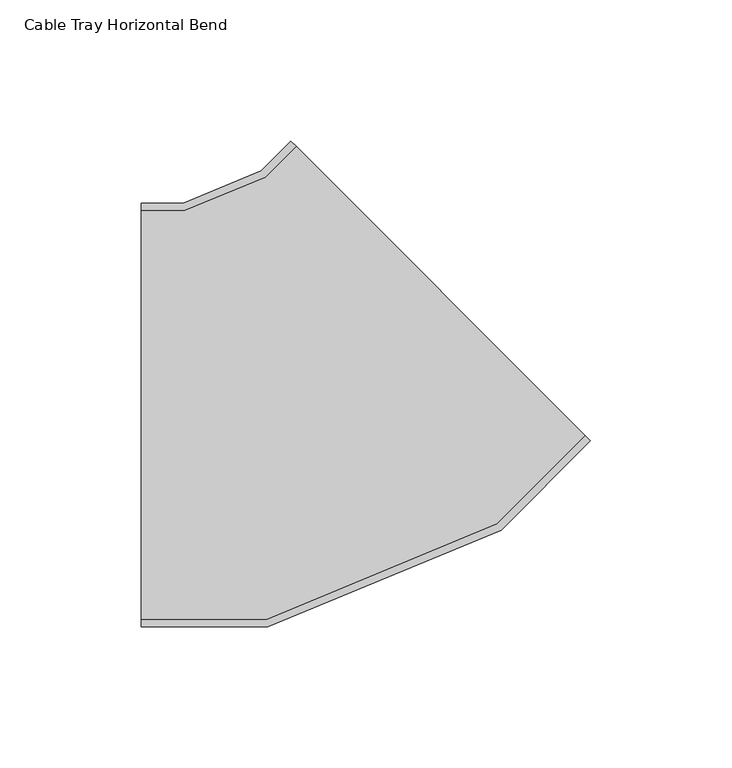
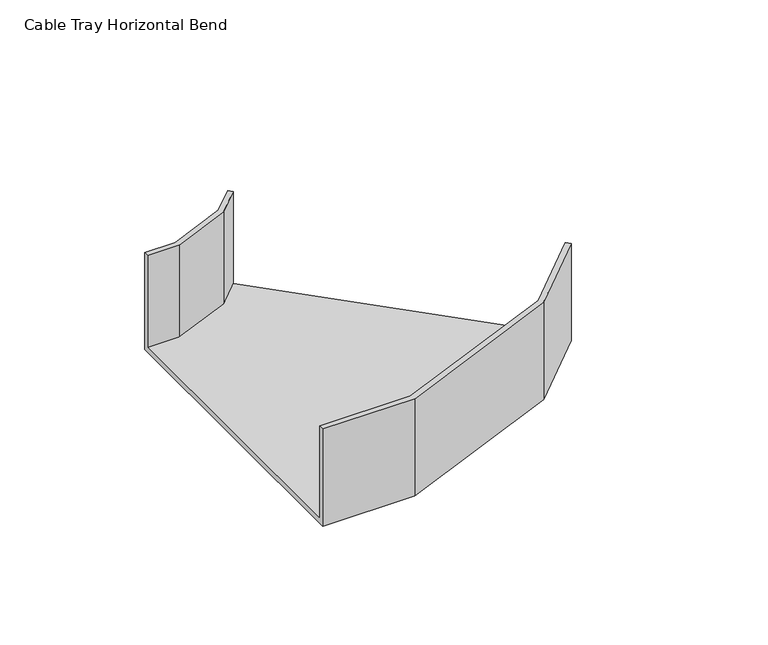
"""IFC4 building model written with IfcOpenShell, lengths in millimetres: cable carrier fitting geometry, Cable Tray Horizontal Bend : ELEC_ELV_CT_N2402."""

from ifc_helpers import new_model, si_unit, origin, place, context, project, spatial, faceted_brep, source, transform, mapped, element, save


def cable_tray_horizontal_bend_0aeb7664(model_context):
    return source(origin(), model_context, "Body", "Brep", [
        faceted_brep([(-62.1320344, -75.0, -25.0), (-62.1320344, -75.0, 25.0), (-62.1320344, -72.46, 25.0), (-62.1320344, -72.46, -22.46), (-62.1320344, 72.46, -22.46), (-62.1320344, 72.46, 25.0), (-62.1320344, 75.0, 25.0), (-62.1320344, 75.0, -25.0), (96.9669914, -9.0990258, -25.0), (-9.0990258, 96.9669914, -25.0), (-9.0990258, 96.9669914, 25.0), (-7.3029745, 95.1709402, 25.0), (-7.3029745, 95.1709402, -22.46), (95.1709402, -7.3029745, -22.46), (95.1709402, -7.3029745, 25.0), (96.9669914, -9.0990258, 25.0), (-17.3767517, -75.0, -25.0), (-17.3767517, -75.0, 25.0), (65.3202275, -40.7457896, 25.0), (63.8814331, -38.5924816, 25.0), (-17.8819891, -72.46, 25.0), (-17.8819891, -72.46, -22.46), (63.8814331, -38.5924816, -22.46), (-18.2091526, 84.2647621, -22.46), (-46.7083694, 72.46, -22.46), (-46.7083694, 72.46, 25.0), (-18.2091526, 84.2647621, 25.0), (-19.6479471, 86.4180701, 25.0), (-47.2136068, 75.0, 25.0), (-47.2136068, 75.0, -25.0), (-19.6479471, 86.4180701, -25.0), (65.3202275, -40.7457896, -25.0)], [[[0, 1, 2, 3, 4, 5, 6, 7]], [[8, 9, 10, 11, 12, 13, 14, 15]], [[1, 0, 16, 17]], [[2, 1, 17, 18, 15, 14, 19, 20]], [[3, 2, 20, 21]], [[4, 3, 21, 22, 13, 12, 23, 24]], [[5, 4, 24, 25]], [[6, 5, 25, 26, 11, 10, 27, 28]], [[7, 6, 28, 29]], [[0, 7, 29, 30, 9, 8, 31, 16]], [[17, 16, 31, 18]], [[21, 20, 19, 22]], [[25, 24, 23, 26]], [[29, 28, 27, 30]], [[18, 31, 8, 15]], [[22, 19, 14, 13]], [[26, 23, 12, 11]], [[30, 27, 10, 9]]]),
    ])


if __name__ == "__main__":
    model = new_model("IFC4")
    model_context = context("Model", 3, world=origin())
    ifc_project = project(units=[si_unit("LENGTHUNIT", "METRE", prefix="MILLI")], contexts=[model_context])
    site = spatial("IfcSite", under=ifc_project)
    building = spatial("IfcBuilding", under=site)
    placement = place(None, origin())
    cable_tray_horizontal_bend_shape = cable_tray_horizontal_bend_0aeb7664(model_context)
    element("IfcCableCarrierFitting", 1, ObjectType="Cable Tray Horizontal Bend : ELEC_ELV_CT_N2402", at=placement, inside=building, context=model_context, shape_type="MappedRepresentation", body=[
        mapped(cable_tray_horizontal_bend_shape, transform((0.0, 0.0, 0.0), x_axis=(1.0, 0.0, 0.0), y_axis=(0.0, 1.0, 0.0), z_axis=(0.0, 0.0, 1.0))),
    ])
    save(model, "model.ifc")
